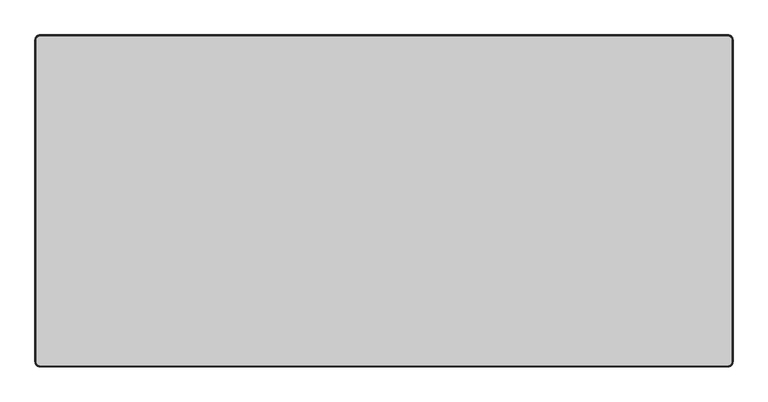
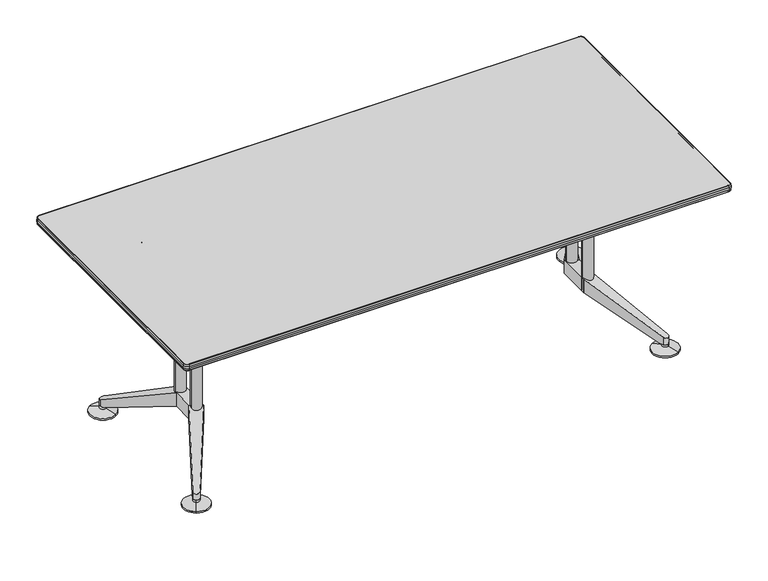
"""IFC4 building model written with IfcOpenShell, lengths in millimetres: furniture geometry, Furniture_Wilkhahn_620-00_Logon Table-Rectangle : Logon 620/00_2100L x 1000W x 730H."""

from ifc_helpers import new_model, si_unit, point, frame, frame_2d, origin, place, context, project, spatial, polyline, circle_curve, ellipse_curve, trimmed, segment, composite_curve, outline, extrude, source, transform, mapped, element, save
from ifc_brep_helpers import plane_surface, cylinder_surface, revolved_surface, advanced_brep


def furniture_32fb68a4(model_context):
    return source(origin(), model_context, "Body", "SolidModel", [
        advanced_brep(
        [(1035.0, 522.1711806, 730.0), (-1035.0, 522.1711806, 730.0), (-1046.2200262, 510.9511544, 730.0), (-1046.2200262, -459.0488456, 730.0), (-1035.0, -470.2688717, 730.0), (1035.0, -470.2688717, 730.0), (1046.2200262, -459.0488456, 730.0), (1046.2200262, 510.9511544, 730.0), (-1046.2200262, -459.0488456, 703.9999792), (-1046.2200262, 510.9511544, 703.9999792), (-1035.0, 522.1711806, 703.9999792), (1035.0, 522.1711806, 703.9999792), (1046.2200262, 510.9511544, 703.9999792), (1046.2200262, -459.0488456, 703.9999792), (1035.0, -470.2688717, 703.9999792), (-1035.0, -470.2688717, 703.9999792), (-1035.0, -472.5502006, 720.5693751), (-1048.5013551, -459.0488456, 720.5693751), (-1048.5013551, -459.0488456, 713.4306041), (-1035.0, -472.5502006, 713.4306041), (1035.0, -472.5502006, 713.4306041), (1035.0, -472.5502006, 720.5693751), (1048.5013551, -459.0488456, 713.4306041), (1048.5013551, -459.0488456, 720.5693751), (1048.5013551, 510.9511544, 713.4306041), (1048.5013551, 510.9511544, 720.5693751), (1035.0, 524.4525095, 713.4306041), (1035.0, 524.4525095, 720.5693751), (-1035.0, 524.4525095, 713.4306041), (-1035.0, 524.4525095, 720.5693751), (-1048.5013551, 510.9511544, 713.4306041), (-1048.5013551, 510.9511544, 720.5693751), (-1035.0, -471.7520946, 705.2762608), (-1047.703249, -459.0488456, 705.2762608), (-1035.0, -471.7520946, 728.7237185), (-1047.703249, -459.0488456, 728.7237185), (1035.0, -471.7520946, 705.2762608), (1035.0, -471.7520946, 728.7237185), (1047.703249, -459.0488456, 705.2762608), (1047.703249, -459.0488456, 728.7237185), (1047.703249, 510.9511544, 705.2762608), (1047.703249, 510.9511544, 728.7237185), (1035.0, 523.6544035, 705.2762608), (1035.0, 523.6544035, 728.7237185), (-1035.0, 523.6544035, 705.2762608), (-1035.0, 523.6544035, 728.7237185), (-1047.703249, 510.9511544, 705.2762608), (-1047.703249, 510.9511544, 728.7237185)],
        [
            (0, 1),
            (1, 2, circle_curve(frame((-1035.0, 510.9511544, 730.0), z_axis=(0.0, 0.0, 1.0), x_axis=(0.0, 1.0, 0.0)), 11.2200262)),
            (2, 3),
            (3, 4, circle_curve(frame((-1035.0, -459.0488456, 730.0), z_axis=(0.0, 0.0, 1.0), x_axis=(-1.0, 0.0, 0.0)), 11.2200262)),
            (4, 5),
            (5, 6, circle_curve(frame((1035.0, -459.0488456, 730.0), z_axis=(0.0, 0.0, 1.0), x_axis=(0.0, -1.0, 0.0)), 11.2200262)),
            (6, 7),
            (7, 0, circle_curve(frame((1035.0, 510.9511544, 730.0), z_axis=(0.0, 0.0, 1.0), x_axis=(1.0, 0.0, 0.0)), 11.2200262)),
            (8, 9),
            (9, 10, circle_curve(frame((-1035.0, 510.9511544, 703.9999792), z_axis=(0.0, 0.0, -1.0), x_axis=(0.0, 1.0, 0.0)), 11.2200262)),
            (10, 11),
            (11, 12, circle_curve(frame((1035.0, 510.9511544, 703.9999792), z_axis=(0.0, 0.0, -1.0), x_axis=(1.0, 0.0, 0.0)), 11.2200262)),
            (12, 13),
            (13, 14, circle_curve(frame((1035.0, -459.0488456, 703.9999792), z_axis=(0.0, 0.0, -1.0), x_axis=(0.0, -1.0, 0.0)), 11.2200262)),
            (14, 15),
            (15, 8, circle_curve(frame((-1035.0, -459.0488456, 703.9999792), z_axis=(0.0, 0.0, -1.0), x_axis=(-1.0, 0.0, 0.0)), 11.2200262)),
            (16, 17, circle_curve(frame((-1035.0, -459.0488456, 720.5693751), z_axis=(0.0, 0.0, -1.0), x_axis=(-1.0, 0.0, 0.0)), 13.5013551)),
            (17, 18, circle_curve(frame((-1045.0, -459.0488456, 716.9999896), z_axis=(0.0, -1.0, 0.0), x_axis=(1.0, 0.0, 0.0)), 5.0)),
            (18, 19, circle_curve(frame((-1035.0, -459.0488456, 713.4306041), z_axis=(0.0, 0.0, 1.0), x_axis=(-1.0, 0.0, 0.0)), 13.5013551)),
            (19, 16, circle_curve(frame((-1035.0, -469.0488456, 716.9999896), z_axis=(-1.0, 0.0, 0.0), x_axis=(0.0, 1.0, 0.0)), 5.0)),
            (19, 20),
            (20, 21, circle_curve(frame((1035.0, -469.0488456, 716.9999896), z_axis=(-1.0, 0.0, 0.0), x_axis=(0.0, 1.0, 0.0)), 5.0)),
            (21, 16),
            (20, 22, circle_curve(frame((1035.0, -459.0488456, 713.4306041), z_axis=(0.0, 0.0, 1.0), x_axis=(0.0, -1.0, 0.0)), 13.5013551)),
            (22, 23, circle_curve(frame((1045.0, -459.0488456, 716.9999896), z_axis=(0.0, -1.0, 0.0), x_axis=(-1.0, 0.0, 0.0)), 5.0)),
            (23, 21, circle_curve(frame((1035.0, -459.0488456, 720.5693751), z_axis=(0.0, 0.0, -1.0), x_axis=(0.0, -1.0, 0.0)), 13.5013551)),
            (22, 24),
            (24, 25, circle_curve(frame((1045.0, 510.9511544, 716.9999896), z_axis=(0.0, -1.0, 0.0), x_axis=(-1.0, 0.0, 0.0)), 5.0)),
            (25, 23),
            (24, 26, circle_curve(frame((1035.0, 510.9511544, 713.4306041), z_axis=(0.0, 0.0, 1.0), x_axis=(1.0, 0.0, 0.0)), 13.5013551)),
            (26, 27, circle_curve(frame((1035.0, 520.9511544, 716.9999896), z_axis=(1.0, 0.0, 0.0), x_axis=(0.0, -1.0, 0.0)), 5.0)),
            (27, 25, circle_curve(frame((1035.0, 510.9511544, 720.5693751), z_axis=(0.0, 0.0, -1.0), x_axis=(1.0, 0.0, 0.0)), 13.5013551)),
            (26, 28),
            (28, 29, circle_curve(frame((-1035.0, 520.9511544, 716.9999896), z_axis=(1.0, 0.0, 0.0), x_axis=(0.0, -1.0, 0.0)), 5.0)),
            (29, 27),
            (28, 30, circle_curve(frame((-1035.0, 510.9511544, 713.4306041), z_axis=(0.0, 0.0, 1.0), x_axis=(0.0, 1.0, 0.0)), 13.5013551)),
            (30, 31, circle_curve(frame((-1045.0, 510.9511544, 716.9999896), z_axis=(0.0, 1.0, 0.0), x_axis=(1.0, 0.0, 0.0)), 5.0)),
            (31, 29, circle_curve(frame((-1035.0, 510.9511544, 720.5693751), z_axis=(0.0, 0.0, -1.0), x_axis=(0.0, 1.0, 0.0)), 13.5013551)),
            (17, 31),
            (30, 18),
            (15, 32, circle_curve(frame((-1035.0, -470.2688717, 705.4999792), z_axis=(-1.0, 0.0, 0.0), x_axis=(0.0, 1.0, 0.0)), 1.5)),
            (32, 33, circle_curve(frame((-1035.0, -459.0488456, 705.2762608), z_axis=(0.0, 0.0, -1.0), x_axis=(-1.0, 0.0, 0.0)), 12.703249)),
            (33, 8, circle_curve(frame((-1046.2200262, -459.0488456, 705.4999792), z_axis=(0.0, -1.0, 0.0), x_axis=(1.0, 0.0, 0.0)), 1.5)),
            (18, 33, circle_curve(frame((-969.9765254, -459.0488456, 716.9999896), z_axis=(0.0, -1.0, 0.0), x_axis=(1.0, 0.0, 0.0)), 78.6059119)),
            (32, 19, circle_curve(frame((-1035.0, -394.025371, 716.9999896), z_axis=(-1.0, 0.0, 0.0), x_axis=(0.0, 1.0, 0.0)), 78.6059119)),
            (16, 34, circle_curve(frame((-1035.0, -394.025371, 716.9999896), z_axis=(-1.0, 0.0, 0.0), x_axis=(0.0, 1.0, 0.0)), 78.6059119)),
            (34, 35, circle_curve(frame((-1035.0, -459.0488456, 728.7237185), z_axis=(0.0, 0.0, -1.0), x_axis=(-1.0, 0.0, 0.0)), 12.703249)),
            (35, 17, circle_curve(frame((-969.9765254, -459.0488456, 716.9999896), z_axis=(0.0, -1.0, 0.0), x_axis=(1.0, 0.0, 0.0)), 78.6059119)),
            (3, 35, circle_curve(frame((-1046.2200262, -459.0488456, 728.5), z_axis=(0.0, -1.0, 0.0), x_axis=(1.0, 0.0, 0.0)), 1.5)),
            (34, 4, circle_curve(frame((-1035.0, -470.2688717, 728.5), z_axis=(-1.0, 0.0, 0.0), x_axis=(0.0, 1.0, 0.0)), 1.5)),
            (14, 36, circle_curve(frame((1035.0, -470.2688717, 705.4999792), z_axis=(-1.0, 0.0, 0.0), x_axis=(0.0, 1.0, 0.0)), 1.5)),
            (36, 32),
            (36, 20, circle_curve(frame((1035.0, -394.025371, 716.9999896), z_axis=(-1.0, 0.0, 0.0), x_axis=(0.0, 1.0, 0.0)), 78.6059119)),
            (21, 37, circle_curve(frame((1035.0, -394.025371, 716.9999896), z_axis=(-1.0, 0.0, 0.0), x_axis=(0.0, 1.0, 0.0)), 78.6059119)),
            (37, 34),
            (37, 5, circle_curve(frame((1035.0, -470.2688717, 728.5), z_axis=(-1.0, 0.0, 0.0), x_axis=(0.0, 1.0, 0.0)), 1.5)),
            (13, 38, circle_curve(frame((1046.2200262, -459.0488456, 705.4999792), z_axis=(0.0, -1.0, 0.0), x_axis=(-1.0, 0.0, 0.0)), 1.5)),
            (38, 36, circle_curve(frame((1035.0, -459.0488456, 705.2762608), z_axis=(0.0, 0.0, -1.0), x_axis=(0.0, -1.0, 0.0)), 12.703249)),
            (38, 22, circle_curve(frame((969.9765254, -459.0488456, 716.9999896), z_axis=(0.0, -1.0, 0.0), x_axis=(-1.0, 0.0, 0.0)), 78.6059119)),
            (23, 39, circle_curve(frame((969.9765254, -459.0488456, 716.9999896), z_axis=(0.0, -1.0, 0.0), x_axis=(-1.0, 0.0, 0.0)), 78.6059119)),
            (39, 37, circle_curve(frame((1035.0, -459.0488456, 728.7237185), z_axis=(0.0, 0.0, -1.0), x_axis=(0.0, -1.0, 0.0)), 12.703249)),
            (39, 6, circle_curve(frame((1046.2200262, -459.0488456, 728.5), z_axis=(0.0, -1.0, 0.0), x_axis=(-1.0, 0.0, 0.0)), 1.5)),
            (12, 40, circle_curve(frame((1046.2200262, 510.9511544, 705.4999792), z_axis=(0.0, -1.0, 0.0), x_axis=(-1.0, 0.0, 0.0)), 1.5)),
            (40, 38),
            (40, 24, circle_curve(frame((969.9765254, 510.9511544, 716.9999896), z_axis=(0.0, -1.0, 0.0), x_axis=(-1.0, 0.0, 0.0)), 78.6059119)),
            (25, 41, circle_curve(frame((969.9765254, 510.9511544, 716.9999896), z_axis=(0.0, -1.0, 0.0), x_axis=(-1.0, 0.0, 0.0)), 78.6059119)),
            (41, 39),
            (41, 7, circle_curve(frame((1046.2200262, 510.9511544, 728.5), z_axis=(0.0, -1.0, 0.0), x_axis=(-1.0, 0.0, 0.0)), 1.5)),
            (11, 42, circle_curve(frame((1035.0, 522.1711806, 705.4999792), z_axis=(1.0, 0.0, 0.0), x_axis=(0.0, -1.0, 0.0)), 1.5)),
            (42, 40, circle_curve(frame((1035.0, 510.9511544, 705.2762608), z_axis=(0.0, 0.0, -1.0), x_axis=(1.0, 0.0, 0.0)), 12.703249)),
            (42, 26, circle_curve(frame((1035.0, 445.9276799, 716.9999896), z_axis=(1.0, 0.0, 0.0), x_axis=(0.0, -1.0, 0.0)), 78.6059119)),
            (27, 43, circle_curve(frame((1035.0, 445.9276799, 716.9999896), z_axis=(1.0, 0.0, 0.0), x_axis=(0.0, -1.0, 0.0)), 78.6059119)),
            (43, 41, circle_curve(frame((1035.0, 510.9511544, 728.7237185), z_axis=(0.0, 0.0, -1.0), x_axis=(1.0, 0.0, 0.0)), 12.703249)),
            (43, 0, circle_curve(frame((1035.0, 522.1711806, 728.5), z_axis=(1.0, 0.0, 0.0), x_axis=(0.0, -1.0, 0.0)), 1.5)),
            (10, 44, circle_curve(frame((-1035.0, 522.1711806, 705.4999792), z_axis=(1.0, 0.0, 0.0), x_axis=(0.0, -1.0, 0.0)), 1.5)),
            (44, 42),
            (44, 28, circle_curve(frame((-1035.0, 445.9276799, 716.9999896), z_axis=(1.0, 0.0, 0.0), x_axis=(0.0, -1.0, 0.0)), 78.6059119)),
            (29, 45, circle_curve(frame((-1035.0, 445.9276799, 716.9999896), z_axis=(1.0, 0.0, 0.0), x_axis=(0.0, -1.0, 0.0)), 78.6059119)),
            (45, 43),
            (45, 1, circle_curve(frame((-1035.0, 522.1711806, 728.5), z_axis=(1.0, 0.0, 0.0), x_axis=(0.0, -1.0, 0.0)), 1.5)),
            (9, 46, circle_curve(frame((-1046.2200262, 510.9511544, 705.4999792), z_axis=(0.0, 1.0, 0.0), x_axis=(1.0, 0.0, 0.0)), 1.5)),
            (46, 44, circle_curve(frame((-1035.0, 510.9511544, 705.2762608), z_axis=(0.0, 0.0, -1.0), x_axis=(0.0, 1.0, 0.0)), 12.703249)),
            (46, 30, circle_curve(frame((-969.9765254, 510.9511544, 716.9999896), z_axis=(0.0, 1.0, 0.0), x_axis=(1.0, 0.0, 0.0)), 78.6059119)),
            (31, 47, circle_curve(frame((-969.9765254, 510.9511544, 716.9999896), z_axis=(0.0, 1.0, 0.0), x_axis=(1.0, 0.0, 0.0)), 78.6059119)),
            (47, 45, circle_curve(frame((-1035.0, 510.9511544, 728.7237185), z_axis=(0.0, 0.0, -1.0), x_axis=(0.0, 1.0, 0.0)), 12.703249)),
            (47, 2, circle_curve(frame((-1046.2200262, 510.9511544, 728.5), z_axis=(0.0, 1.0, 0.0), x_axis=(1.0, 0.0, 0.0)), 1.5)),
            (33, 46),
            (35, 47),
        ],
        [
            plane_surface(frame((-1045.0, -459.0488456, 730.0), z_axis=(0.0, 0.0, 1.0), x_axis=(0.0, -1.0, 0.0))),
            plane_surface(frame((-1045.0, -459.0488456, 703.9999792), z_axis=(0.0, 0.0, -1.0), x_axis=(0.0, 1.0, 0.0))),
            revolved_surface(trimmed(ellipse_curve(frame((-1045.0, -459.0488456, 716.9999896), z_axis=(0.0, 1.0, 0.0), x_axis=(1.0, 0.0, 0.0)), 5.0, 5.0), [point((-1048.5013551, -459.0488456, 713.4306041))], [point((-1048.5013551, -459.0488456, 720.5693751))], True, "CARTESIAN"), (-1035.0, -459.0488456, 730.0), (0.0, 0.0, 1.0)),
            cylinder_surface(frame((-1035.0, -469.0488456, 716.9999896), z_axis=(-1.0, 0.0, 0.0), x_axis=(0.0, 1.0, 0.0)), 5.0),
            revolved_surface(trimmed(ellipse_curve(frame((1035.0, -469.0488456, 716.9999896), z_axis=(-1.0, 0.0, 0.0), x_axis=(0.0, 1.0, 0.0)), 5.0, 5.0), [point((1035.0, -472.5502006, 713.4306041))], [point((1035.0, -472.5502006, 720.5693751))], True, "CARTESIAN"), (1035.0, -459.0488456, 730.0), (0.0, 0.0, 1.0)),
            cylinder_surface(frame((1045.0, -459.0488456, 716.9999896), z_axis=(0.0, -1.0, 0.0), x_axis=(-1.0, 0.0, 0.0)), 5.0),
            revolved_surface(trimmed(ellipse_curve(frame((1045.0, 510.9511544, 716.9999896), z_axis=(0.0, -1.0, 0.0), x_axis=(-1.0, 0.0, 0.0)), 5.0, 5.0), [point((1048.5013551, 510.9511544, 713.4306041))], [point((1048.5013551, 510.9511544, 720.5693751))], True, "CARTESIAN"), (1035.0, 510.9511544, 730.0), (0.0, 0.0, 1.0)),
            cylinder_surface(frame((1035.0, 520.9511544, 716.9999896), z_axis=(1.0, 0.0, 0.0), x_axis=(0.0, -1.0, 0.0)), 5.0),
            revolved_surface(trimmed(ellipse_curve(frame((-1035.0, 520.9511544, 716.9999896), z_axis=(1.0, 0.0, 0.0), x_axis=(0.0, -1.0, 0.0)), 5.0, 5.0), [point((-1035.0, 524.4525095, 713.4306041))], [point((-1035.0, 524.4525095, 720.5693751))], True, "CARTESIAN"), (-1035.0, 510.9511544, 730.0), (0.0, 0.0, 1.0)),
            cylinder_surface(frame((-1045.0, 510.9511544, 716.9999896), z_axis=(0.0, 1.0, 0.0), x_axis=(1.0, 0.0, 0.0)), 5.0),
            revolved_surface(trimmed(ellipse_curve(frame((-1046.2200262, -459.0488456, 705.4999792), z_axis=(0.0, 1.0, 0.0), x_axis=(1.0, 0.0, 0.0)), 1.5, 1.5), [point((-1046.2200262, -459.0488456, 703.9999792))], [point((-1047.703249, -459.0488456, 705.2762608))], True, "CARTESIAN"), (-1035.0, -459.0488456, 730.0), (0.0, 0.0, 1.0)),
            revolved_surface(trimmed(ellipse_curve(frame((-969.9765254, -459.0488456, 716.9999896), z_axis=(0.0, 1.0, 0.0), x_axis=(1.0, 0.0, 0.0)), 78.6059119, 78.6059119), [point((-1047.703249, -459.0488456, 705.2762608))], [point((-1048.5013551, -459.0488456, 713.4306041))], True, "CARTESIAN"), (-1035.0, -459.0488456, 730.0), (0.0, 0.0, 1.0)),
            revolved_surface(trimmed(ellipse_curve(frame((-969.9765254, -459.0488456, 716.9999896), z_axis=(0.0, 1.0, 0.0), x_axis=(1.0, 0.0, 0.0)), 78.6059119, 78.6059119), [point((-1048.5013551, -459.0488456, 720.5693751))], [point((-1047.703249, -459.0488456, 728.7237185))], True, "CARTESIAN"), (-1035.0, -459.0488456, 730.0), (0.0, 0.0, 1.0)),
            revolved_surface(trimmed(ellipse_curve(frame((-1046.2200262, -459.0488456, 728.5), z_axis=(0.0, 1.0, 0.0), x_axis=(1.0, 0.0, 0.0)), 1.5, 1.5), [point((-1047.703249, -459.0488456, 728.7237185))], [point((-1046.2200262, -459.0488456, 730.0))], True, "CARTESIAN"), (-1035.0, -459.0488456, 730.0), (0.0, 0.0, 1.0)),
            cylinder_surface(frame((-1035.0, -470.2688717, 705.4999792), z_axis=(-1.0, 0.0, 0.0), x_axis=(0.0, 1.0, 0.0)), 1.5),
            cylinder_surface(frame((-1035.0, -394.025371, 716.9999896), z_axis=(-1.0, 0.0, 0.0), x_axis=(0.0, 1.0, 0.0)), 78.6059119),
            cylinder_surface(frame((-1035.0, -470.2688717, 728.5), z_axis=(-1.0, 0.0, 0.0), x_axis=(0.0, 1.0, 0.0)), 1.5),
            revolved_surface(trimmed(ellipse_curve(frame((1035.0, -470.2688717, 705.4999792), z_axis=(-1.0, 0.0, 0.0), x_axis=(0.0, 1.0, 0.0)), 1.5, 1.5), [point((1035.0, -470.2688717, 703.9999792))], [point((1035.0, -471.7520946, 705.2762608))], True, "CARTESIAN"), (1035.0, -459.0488456, 730.0), (0.0, 0.0, 1.0)),
            revolved_surface(trimmed(ellipse_curve(frame((1035.0, -394.025371, 716.9999896), z_axis=(-1.0, 0.0, 0.0), x_axis=(0.0, 1.0, 0.0)), 78.6059119, 78.6059119), [point((1035.0, -471.7520946, 705.2762608))], [point((1035.0, -472.5502006, 713.4306041))], True, "CARTESIAN"), (1035.0, -459.0488456, 730.0), (0.0, 0.0, 1.0)),
            revolved_surface(trimmed(ellipse_curve(frame((1035.0, -394.025371, 716.9999896), z_axis=(-1.0, 0.0, 0.0), x_axis=(0.0, 1.0, 0.0)), 78.6059119, 78.6059119), [point((1035.0, -472.5502006, 720.5693751))], [point((1035.0, -471.7520946, 728.7237185))], True, "CARTESIAN"), (1035.0, -459.0488456, 730.0), (0.0, 0.0, 1.0)),
            revolved_surface(trimmed(ellipse_curve(frame((1035.0, -470.2688717, 728.5), z_axis=(-1.0, 0.0, 0.0), x_axis=(0.0, 1.0, 0.0)), 1.5, 1.5), [point((1035.0, -471.7520946, 728.7237185))], [point((1035.0, -470.2688717, 730.0))], True, "CARTESIAN"), (1035.0, -459.0488456, 730.0), (0.0, 0.0, 1.0)),
            cylinder_surface(frame((1046.2200262, -459.0488456, 705.4999792), z_axis=(0.0, -1.0, 0.0), x_axis=(-1.0, 0.0, 0.0)), 1.5),
            cylinder_surface(frame((969.9765254, -459.0488456, 716.9999896), z_axis=(0.0, -1.0, 0.0), x_axis=(-1.0, 0.0, 0.0)), 78.6059119),
            cylinder_surface(frame((1046.2200262, -459.0488456, 728.5), z_axis=(0.0, -1.0, 0.0), x_axis=(-1.0, 0.0, 0.0)), 1.5),
            revolved_surface(trimmed(ellipse_curve(frame((1046.2200262, 510.9511544, 705.4999792), z_axis=(0.0, -1.0, 0.0), x_axis=(-1.0, 0.0, 0.0)), 1.5, 1.5), [point((1046.2200262, 510.9511544, 703.9999792))], [point((1047.703249, 510.9511544, 705.2762608))], True, "CARTESIAN"), (1035.0, 510.9511544, 730.0), (0.0, 0.0, 1.0)),
            revolved_surface(trimmed(ellipse_curve(frame((969.9765254, 510.9511544, 716.9999896), z_axis=(0.0, -1.0, 0.0), x_axis=(-1.0, 0.0, 0.0)), 78.6059119, 78.6059119), [point((1047.703249, 510.9511544, 705.2762608))], [point((1048.5013551, 510.9511544, 713.4306041))], True, "CARTESIAN"), (1035.0, 510.9511544, 730.0), (0.0, 0.0, 1.0)),
            revolved_surface(trimmed(ellipse_curve(frame((969.9765254, 510.9511544, 716.9999896), z_axis=(0.0, -1.0, 0.0), x_axis=(-1.0, 0.0, 0.0)), 78.6059119, 78.6059119), [point((1048.5013551, 510.9511544, 720.5693751))], [point((1047.703249, 510.9511544, 728.7237185))], True, "CARTESIAN"), (1035.0, 510.9511544, 730.0), (0.0, 0.0, 1.0)),
            revolved_surface(trimmed(ellipse_curve(frame((1046.2200262, 510.9511544, 728.5), z_axis=(0.0, -1.0, 0.0), x_axis=(-1.0, 0.0, 0.0)), 1.5, 1.5), [point((1047.703249, 510.9511544, 728.7237185))], [point((1046.2200262, 510.9511544, 730.0))], True, "CARTESIAN"), (1035.0, 510.9511544, 730.0), (0.0, 0.0, 1.0)),
            cylinder_surface(frame((1035.0, 522.1711806, 705.4999792), z_axis=(1.0, 0.0, 0.0), x_axis=(0.0, -1.0, 0.0)), 1.5),
            cylinder_surface(frame((1035.0, 445.9276799, 716.9999896), z_axis=(1.0, 0.0, 0.0), x_axis=(0.0, -1.0, 0.0)), 78.6059119),
            cylinder_surface(frame((1035.0, 522.1711806, 728.5), z_axis=(1.0, 0.0, 0.0), x_axis=(0.0, -1.0, 0.0)), 1.5),
            revolved_surface(trimmed(ellipse_curve(frame((-1035.0, 522.1711806, 705.4999792), z_axis=(1.0, 0.0, 0.0), x_axis=(0.0, -1.0, 0.0)), 1.5, 1.5), [point((-1035.0, 522.1711806, 703.9999792))], [point((-1035.0, 523.6544035, 705.2762608))], True, "CARTESIAN"), (-1035.0, 510.9511544, 730.0), (0.0, 0.0, 1.0)),
            revolved_surface(trimmed(ellipse_curve(frame((-1035.0, 445.9276799, 716.9999896), z_axis=(1.0, 0.0, 0.0), x_axis=(0.0, -1.0, 0.0)), 78.6059119, 78.6059119), [point((-1035.0, 523.6544035, 705.2762608))], [point((-1035.0, 524.4525095, 713.4306041))], True, "CARTESIAN"), (-1035.0, 510.9511544, 730.0), (0.0, 0.0, 1.0)),
            revolved_surface(trimmed(ellipse_curve(frame((-1035.0, 445.9276799, 716.9999896), z_axis=(1.0, 0.0, 0.0), x_axis=(0.0, -1.0, 0.0)), 78.6059119, 78.6059119), [point((-1035.0, 524.4525095, 720.5693751))], [point((-1035.0, 523.6544035, 728.7237185))], True, "CARTESIAN"), (-1035.0, 510.9511544, 730.0), (0.0, 0.0, 1.0)),
            revolved_surface(trimmed(ellipse_curve(frame((-1035.0, 522.1711806, 728.5), z_axis=(1.0, 0.0, 0.0), x_axis=(0.0, -1.0, 0.0)), 1.5, 1.5), [point((-1035.0, 523.6544035, 728.7237185))], [point((-1035.0, 522.1711806, 730.0))], True, "CARTESIAN"), (-1035.0, 510.9511544, 730.0), (0.0, 0.0, 1.0)),
            cylinder_surface(frame((-1046.2200262, 510.9511544, 705.4999792), z_axis=(0.0, 1.0, 0.0), x_axis=(1.0, 0.0, 0.0)), 1.5),
            cylinder_surface(frame((-969.9765254, 510.9511544, 716.9999896), z_axis=(0.0, 1.0, 0.0), x_axis=(1.0, 0.0, 0.0)), 78.6059119),
            cylinder_surface(frame((-1046.2200262, 510.9511544, 728.5), z_axis=(0.0, 1.0, 0.0), x_axis=(1.0, 0.0, 0.0)), 1.5),
        ],
        [
            (0, [[1, 2, 3, 4, 5, 6, 7, 8]]),
            (1, [[9, 10, 11, 12, 13, 14, 15, 16]]),
            (2, [[17, 18, 19, 20]]),
            (3, [[-20, 21, 22, 23]]),
            (4, [[-22, 24, 25, 26]]),
            (5, [[-25, 27, 28, 29]]),
            (6, [[-28, 30, 31, 32]]),
            (7, [[-31, 33, 34, 35]]),
            (8, [[-34, 36, 37, 38]]),
            (9, [[-18, 39, -37, 40]]),
            (10, [[-16, 41, 42, 43]]),
            (11, [[-19, 44, -42, 45]]),
            (12, [[-17, 46, 47, 48]]),
            (13, [[-4, 49, -47, 50]]),
            (14, [[-15, 51, 52, -41]]),
            (15, [[-21, -45, -52, 53]]),
            (15, [[-23, 54, 55, -46]]),
            (16, [[-5, -50, -55, 56]]),
            (17, [[-14, 57, 58, -51]]),
            (18, [[-24, -53, -58, 59]]),
            (19, [[-26, 60, 61, -54]]),
            (20, [[-6, -56, -61, 62]]),
            (21, [[-13, 63, 64, -57]]),
            (22, [[-27, -59, -64, 65]]),
            (22, [[-29, 66, 67, -60]]),
            (23, [[-7, -62, -67, 68]]),
            (24, [[-12, 69, 70, -63]]),
            (25, [[-30, -65, -70, 71]]),
            (26, [[-32, 72, 73, -66]]),
            (27, [[-8, -68, -73, 74]]),
            (28, [[-11, 75, 76, -69]]),
            (29, [[-33, -71, -76, 77]]),
            (29, [[-35, 78, 79, -72]]),
            (30, [[-1, -74, -79, 80]]),
            (31, [[-10, 81, 82, -75]]),
            (32, [[-36, -77, -82, 83]]),
            (33, [[-38, 84, 85, -78]]),
            (34, [[-2, -80, -85, 86]]),
            (35, [[-9, -43, 87, -81]]),
            (36, [[-40, -83, -87, -44]]),
            (36, [[-39, -48, 88, -84]]),
            (37, [[-3, -86, -88, -49]]),
        ],
    ),
        extrude(outline(polyline([(771.6506351, -14.5488456), (728.3493649, -39.5488456), (728.3493649, 91.4511544), (771.6506351, 66.4511544), (771.6506351, -14.5488456)])), frame((0.0, 0.0, 140.0), z_axis=(0.0, 0.0, 1.0), x_axis=(1.0, 0.0, 0.0)), (0.0, 0.0, 1.0), 55.0),
        advanced_brep(
        [(728.3493649, -39.5488456, 195.0), (888.2296242, -291.398815, 56.1717347), (905.0, -295.5167207, 50.6048844), (909.8189769, -278.9341964, 56.1717347), (771.6506351, -14.5488456, 195.0), (903.7925387, -267.402597, 27.0), (909.8189769, -278.9341964, 27.0), (905.0, -295.5167207, 27.0), (888.2296242, -291.398815, 27.0), (881.2561852, -280.4139667, 27.0), (771.6506351, -14.5488456, 140.0), (728.3493649, -39.5488456, 140.0)],
        [
            (0, 1),
            (1, 2, ellipse_curve(frame((898.762181, -284.7125013, 56.4159205), z_axis=(0.21111665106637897, -0.36566476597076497, 0.9064871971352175), x_axis=(0.4532435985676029, -0.7850409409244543, -0.42223330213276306)), 13.7626191, 12.475638)),
            (2, 3, ellipse_curve(frame((898.762181, -284.7125013, 56.4159205), z_axis=(0.21111665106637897, -0.36566476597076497, 0.9064871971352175), x_axis=(0.4532435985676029, -0.7850409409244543, -0.42223330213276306)), 13.7626191, 12.475638)),
            (3, 4),
            (4, 0),
            (5, 6),
            (6, 7, circle_curve(frame((898.762181, -284.7125013, 27.0), z_axis=(0.0, 0.0, -1.0), x_axis=(0.8660254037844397, 0.4999999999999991, 0.0)), 12.475638)),
            (7, 8, circle_curve(frame((898.762181, -284.7125013, 27.0), z_axis=(0.0, 0.0, -1.0), x_axis=(0.8660254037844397, 0.4999999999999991, 0.0)), 12.475638)),
            (8, 9),
            (9, 5),
            (10, 5),
            (9, 11),
            (11, 10),
            (4, 10),
            (11, 0),
            (3, 6),
            (8, 1),
        ],
        [
            plane_surface(frame((926.6506351, -283.0167207, 50.6048844), z_axis=(0.21111665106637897, -0.36566476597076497, 0.9064871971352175), x_axis=(-0.8660254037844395, -0.49999999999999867, 0.0))),
            plane_surface(frame((914.1749971, -261.4082819, 27.0), z_axis=(0.0, 0.0, -1.0), x_axis=(-0.8660254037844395, -0.49999999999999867, 0.0))),
            plane_surface(frame((771.6506351, -14.5488456, 140.0), z_axis=(-0.18426133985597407, 0.3191500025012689, -0.9296187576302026), x_axis=(-0.866025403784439, -0.4999999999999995, 0.0))),
            plane_surface(frame((771.6506351, -14.5488456, 195.0), z_axis=(-0.4999999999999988, 0.8660254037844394, 0.0), x_axis=(-0.8660254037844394, -0.4999999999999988, 0.0))),
            plane_surface(frame((909.8189769, -278.9341964, 195.0), z_axis=(0.8862709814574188, 0.4631670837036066, 0.0), x_axis=(0.0, 0.0, -1.0))),
            plane_surface(frame((728.3493649, -39.5488456, 195.0), z_axis=(-0.8442499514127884, -0.5359496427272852, 0.0), x_axis=(0.0, 0.0, -1.0))),
            cylinder_surface(frame((898.762181, -284.7125013, 0.0), z_axis=(0.0, 0.0, -1.0), x_axis=(0.8660254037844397, 0.4999999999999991, 0.0)), 12.475638),
        ],
        [
            (0, [[1, 2, 3, 4, 5]]),
            (1, [[6, 7, 8, 9, 10]]),
            (2, [[11, -10, 12, 13]]),
            (3, [[14, -13, 15, -5]]),
            (4, [[-6, -11, -14, -4, 16]]),
            (5, [[-1, -15, -12, -9, 17]]),
            (6, [[-3, -2, -17, -8, -7, -16]]),
        ],
    ),
        advanced_brep(
        [(898.762181, 336.6148102, 0.0), (873.762181, 293.31354, 0.0), (923.762181, 379.9160804, 0.0), (873.762181, 293.31354, 6.0), (923.762181, 379.9160804, 6.0), (892.524362, 325.8105907, 17.0), (905.0, 347.4190296, 17.0), (892.524362, 325.8105907, 27.0), (905.0, 347.4190296, 27.0), (898.762181, 336.6148102, 27.0)],
        [
            (0, 1),
            (1, 2, circle_curve(frame((898.762181, 336.6148102, 0.0), z_axis=(0.0, 0.0, -1.0), x_axis=(0.49999999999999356, 0.8660254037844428, 0.0)), 50.0)),
            (2, 0),
            (2, 1, circle_curve(frame((898.762181, 336.6148102, 0.0), z_axis=(0.0, 0.0, -1.0), x_axis=(0.49999999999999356, 0.8660254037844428, 0.0)), 50.0)),
            (1, 3),
            (3, 4, circle_curve(frame((898.762181, 336.6148102, 6.0), z_axis=(0.0, 0.0, -1.0), x_axis=(0.49999999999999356, 0.8660254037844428, 0.0)), 50.0)),
            (4, 2),
            (4, 3, circle_curve(frame((898.762181, 336.6148102, 6.0), z_axis=(0.0, 0.0, -1.0), x_axis=(0.49999999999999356, 0.8660254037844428, 0.0)), 50.0)),
            (3, 5),
            (5, 6, circle_curve(frame((898.762181, 336.6148102, 17.0), z_axis=(0.0, 0.0, -1.0), x_axis=(0.49999999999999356, 0.8660254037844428, 0.0)), 12.475638)),
            (6, 4),
            (6, 5, circle_curve(frame((898.762181, 336.6148102, 17.0), z_axis=(0.0, 0.0, -1.0), x_axis=(0.49999999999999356, 0.8660254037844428, 0.0)), 12.475638)),
            (5, 7),
            (7, 8, circle_curve(frame((898.762181, 336.6148102, 27.0), z_axis=(0.0, 0.0, -1.0), x_axis=(0.49999999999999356, 0.8660254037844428, 0.0)), 12.475638)),
            (8, 6),
            (8, 7, circle_curve(frame((898.762181, 336.6148102, 27.0), z_axis=(0.0, 0.0, -1.0), x_axis=(0.49999999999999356, 0.8660254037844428, 0.0)), 12.475638)),
            (7, 9),
            (9, 8),
        ],
        [
            plane_surface(frame((898.762181, 336.6148102, 0.0), z_axis=(0.0, 0.0, -1.0), x_axis=(0.49999999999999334, 0.8660254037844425, 0.0))),
            cylinder_surface(frame((898.762181, 336.6148102, 27.0), z_axis=(0.0, 0.0, -1.0), x_axis=(0.49999999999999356, 0.8660254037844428, 0.0)), 50.0),
            revolved_surface(polyline([(905.0, 347.4190296, 17.0), (923.762181, 379.9160804, 6.0)]), (898.762181, 336.6148102, 27.0), (0.0, 0.0, -1.0)),
            cylinder_surface(frame((898.762181, 336.6148102, 27.0), z_axis=(0.0, 0.0, -1.0), x_axis=(0.49999999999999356, 0.8660254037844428, 0.0)), 12.475638),
            plane_surface(frame((898.762181, 336.6148102, 27.0), z_axis=(0.0, 0.0, 1.0), x_axis=(0.49999999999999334, 0.8660254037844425, 0.0))),
        ],
        [
            (0, [[1, 2, 3]]),
            (0, [[-3, 4, -1]]),
            (1, [[5, 6, 7, -2]]),
            (1, [[-7, 8, -5, -4]]),
            (2, [[9, 10, 11, -6]]),
            (2, [[-11, 12, -9, -8]]),
            (3, [[13, 14, 15, -10]]),
            (3, [[-15, 16, -13, -12]]),
            (4, [[17, 18, -14]]),
            (4, [[-18, -17, -16]]),
        ],
    ),
        advanced_brep(
        [(873.762181, -241.4112311, 0.0), (898.762181, -284.7125013, 0.0), (923.762181, -328.0137715, 0.0), (873.762181, -241.4112311, 6.0), (923.762181, -328.0137715, 6.0), (892.524362, -273.9082819, 17.0), (905.0, -295.5167207, 17.0), (892.524362, -273.9082819, 27.0), (905.0, -295.5167207, 27.0), (898.762181, -284.7125013, 27.0)],
        [
            (0, 1),
            (1, 2),
            (2, 0, circle_curve(frame((898.762181, -284.7125013, 0.0), z_axis=(0.0, 0.0, -1.0), x_axis=(0.4999999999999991, -0.8660254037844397, 0.0)), 50.0)),
            (0, 2, circle_curve(frame((898.762181, -284.7125013, 0.0), z_axis=(0.0, 0.0, -1.0), x_axis=(0.4999999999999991, -0.8660254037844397, 0.0)), 50.0)),
            (3, 0),
            (2, 4),
            (4, 3, circle_curve(frame((898.762181, -284.7125013, 6.0), z_axis=(0.0, 0.0, -1.0), x_axis=(0.4999999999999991, -0.8660254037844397, 0.0)), 50.0)),
            (3, 4, circle_curve(frame((898.762181, -284.7125013, 6.0), z_axis=(0.0, 0.0, -1.0), x_axis=(0.4999999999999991, -0.8660254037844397, 0.0)), 50.0)),
            (5, 3),
            (4, 6),
            (6, 5, circle_curve(frame((898.762181, -284.7125013, 17.0), z_axis=(0.0, 0.0, -1.0), x_axis=(0.4999999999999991, -0.8660254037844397, 0.0)), 12.475638)),
            (5, 6, circle_curve(frame((898.762181, -284.7125013, 17.0), z_axis=(0.0, 0.0, -1.0), x_axis=(0.4999999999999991, -0.8660254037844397, 0.0)), 12.475638)),
            (7, 5),
            (6, 8),
            (8, 7, circle_curve(frame((898.762181, -284.7125013, 27.0), z_axis=(0.0, 0.0, -1.0), x_axis=(0.4999999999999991, -0.8660254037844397, 0.0)), 12.475638)),
            (7, 8, circle_curve(frame((898.762181, -284.7125013, 27.0), z_axis=(0.0, 0.0, -1.0), x_axis=(0.4999999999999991, -0.8660254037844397, 0.0)), 12.475638)),
            (9, 7),
            (8, 9),
        ],
        [
            plane_surface(frame((898.762181, -284.7125013, 0.0), z_axis=(0.0, 0.0, -1.0), x_axis=(0.4999999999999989, -0.8660254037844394, 0.0))),
            cylinder_surface(frame((898.762181, -284.7125013, 27.0), z_axis=(0.0, 0.0, 1.0), x_axis=(0.4999999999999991, -0.8660254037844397, 0.0)), 50.0),
            revolved_surface(polyline([(923.762181, -328.0137715, 6.0), (905.0, -295.5167207, 17.0)]), (898.762181, -284.7125013, 27.0), (0.0, 0.0, 1.0)),
            cylinder_surface(frame((898.762181, -284.7125013, 27.0), z_axis=(0.0, 0.0, 1.0), x_axis=(0.4999999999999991, -0.8660254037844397, 0.0)), 12.475638),
            plane_surface(frame((898.762181, -284.7125013, 27.0), z_axis=(0.0, 0.0, 1.0), x_axis=(0.4999999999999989, -0.8660254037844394, 0.0))),
        ],
        [
            (0, [[1, 2, 3]]),
            (0, [[-2, -1, 4]]),
            (1, [[5, -3, 6, 7]]),
            (1, [[-6, -4, -5, 8]]),
            (2, [[9, -7, 10, 11]]),
            (2, [[-10, -8, -9, 12]]),
            (3, [[13, -11, 14, 15]]),
            (3, [[-14, -12, -13, 16]]),
            (4, [[17, -15, 18]]),
            (4, [[-18, -16, -17]]),
        ],
    ),
        extrude(outline(composite_curve([segment(polyline([(775.0, 78.9511544), (775.0, -27.0488456), (801.7160071, -190.1086133)]), True, "CONTINUOUS"), segment(trimmed(circle_curve(frame_2d((789.8739001, -192.0488456)), 12.0), [point((801.7160071, -190.1086133))], [point((789.8739001, -204.0488456))], False, "CARTESIAN"), True, "CONTINUOUS"), segment(polyline([(789.8739001, -204.0488456), (710.1260999, -204.0488456)]), True, "CONTINUOUS"), segment(trimmed(circle_curve(frame_2d((710.1260999, -192.0488456)), 12.0), [point((710.1260999, -204.0488456))], [point((698.2839929, -190.1086133))], False, "CARTESIAN"), True, "CONTINUOUS"), segment(polyline([(698.2839929, -190.1086133), (725.0, -27.0488456), (725.0, 78.9511544), (698.2839929, 242.0109222)]), True, "CONTINUOUS"), segment(trimmed(circle_curve(frame_2d((710.1260999, 243.9511544)), 12.0), [point((698.2839929, 242.0109222))], [point((710.1260999, 255.9511544))], False, "CARTESIAN"), True, "CONTINUOUS"), segment(polyline([(710.1260999, 255.9511544), (789.8739001, 255.9511544)]), True, "CONTINUOUS"), segment(trimmed(circle_curve(frame_2d((789.8739001, 243.9511544)), 12.0), [point((789.8739001, 255.9511544))], [point((801.7160071, 242.0109222))], False, "CARTESIAN"), True, "CONTINUOUS"), segment(polyline([(801.7160071, 242.0109222), (775.0, 78.9511544)]), True, "CONTINUOUS")], self_intersect=False)), frame((0.0, 0.0, 675.0), z_axis=(0.0, 0.0, 1.0), x_axis=(1.0, 0.0, 0.0)), (0.0, 0.0, 1.0), 29.0),
        advanced_brep(
        [(909.8189769, 330.8365053, 56.1717347), (771.6506351, 66.4511544, 195.0), (771.6506351, 66.4511544, 140.0), (903.7925387, 319.3049058, 27.0), (909.8189769, 330.8365053, 27.0), (888.2296242, 343.3011239, 27.0), (881.2561852, 332.3162756, 27.0), (728.3493649, 91.4511544, 140.0), (728.3493649, 91.4511544, 195.0), (888.2296242, 343.3011239, 56.1717347), (905.0, 347.4190296, 50.6048844), (905.0, 347.4190296, 27.0)],
        [
            (0, 1),
            (1, 2),
            (2, 3),
            (3, 4),
            (4, 0),
            (5, 6),
            (6, 7),
            (7, 8),
            (8, 9),
            (9, 5),
            (0, 10, ellipse_curve(frame((898.762181, 336.6148102, 56.4159205), z_axis=(0.21111665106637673, 0.36566476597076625, 0.9064871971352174), x_axis=(0.453243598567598, 0.785040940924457, -0.4222333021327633)), 13.7626191, 12.475638)),
            (10, 9, ellipse_curve(frame((898.762181, 336.6148102, 56.4159205), z_axis=(0.21111665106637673, 0.36566476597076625, 0.9064871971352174), x_axis=(0.453243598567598, 0.785040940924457, -0.4222333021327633)), 13.7626191, 12.475638)),
            (8, 1),
            (5, 11, circle_curve(frame((898.762181, 336.6148102, 27.0), z_axis=(0.0, 0.0, -1.0), x_axis=(0.8660254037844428, -0.49999999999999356, 0.0)), 12.475638)),
            (11, 4, circle_curve(frame((898.762181, 336.6148102, 27.0), z_axis=(0.0, 0.0, -1.0), x_axis=(0.8660254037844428, -0.49999999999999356, 0.0)), 12.475638)),
            (3, 6),
            (2, 7),
        ],
        [
            plane_surface(frame((771.6506351, 66.4511544, 195.0), z_axis=(0.8862709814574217, -0.46316708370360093, 0.0), x_axis=(0.0, 0.0, -1.0))),
            plane_surface(frame((888.2296242, 343.3011239, 195.0), z_axis=(-0.844249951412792, 0.5359496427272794, 0.0), x_axis=(0.0, 0.0, -1.0))),
            plane_surface(frame((771.6506351, 66.4511544, 195.0), z_axis=(0.21111665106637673, 0.36566476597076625, 0.9064871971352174), x_axis=(-0.8660254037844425, 0.49999999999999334, 0.0))),
            plane_surface(frame((926.6506351, 334.9190296, 27.0), z_axis=(0.0, 0.0, -1.0), x_axis=(-0.8660254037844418, 0.4999999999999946, 0.0))),
            plane_surface(frame((914.1749971, 313.3105907, 27.0), z_axis=(-0.1842613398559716, -0.3191500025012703, -0.9296187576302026), x_axis=(-0.8660254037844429, 0.49999999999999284, 0.0))),
            cylinder_surface(frame((898.762181, 336.6148102, 0.0), z_axis=(0.0, 0.0, -1.0), x_axis=(0.8660254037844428, -0.49999999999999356, 0.0)), 12.475638),
            plane_surface(frame((771.6506351, 66.4511544, 140.0), z_axis=(-0.4999999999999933, -0.8660254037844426, 0.0), x_axis=(-0.8660254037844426, 0.4999999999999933, 0.0))),
        ],
        [
            (0, [[1, 2, 3, 4, 5]]),
            (1, [[6, 7, 8, 9, 10]]),
            (2, [[-1, 11, 12, -9, 13]]),
            (3, [[-6, 14, 15, -4, 16]]),
            (4, [[-7, -16, -3, 17]]),
            (5, [[-12, -11, -5, -15, -14, -10]]),
            (6, [[-8, -17, -2, -13]]),
        ],
    ),
        extrude(outline(composite_curve([segment(trimmed(circle_curve(frame_2d((750.0, 78.9511544)), 20.0), [point((730.0, 78.9511544))], [point((770.0, 78.9511544))], False, "CARTESIAN"), True, "CONTINUOUS"), segment(trimmed(circle_curve(frame_2d((750.0, 78.9511544)), 20.0), [point((770.0, 78.9511544))], [point((730.0, 78.9511544))], False, "CARTESIAN"), True, "CONTINUOUS")], self_intersect=False)), frame((0.0, 0.0, 140.0), z_axis=(0.0, 0.0, 1.0), x_axis=(1.0, 0.0, 0.0)), (0.0, 0.0, 1.0), 535.0),
        extrude(outline(composite_curve([segment(trimmed(circle_curve(frame_2d((750.0, -27.0488456)), 20.0), [point((730.0, -27.0488456))], [point((770.0, -27.0488456))], False, "CARTESIAN"), True, "CONTINUOUS"), segment(trimmed(circle_curve(frame_2d((750.0, -27.0488456)), 20.0), [point((770.0, -27.0488456))], [point((730.0, -27.0488456))], False, "CARTESIAN"), True, "CONTINUOUS")], self_intersect=False)), frame((0.0, 0.0, 140.0), z_axis=(0.0, 0.0, 1.0), x_axis=(1.0, 0.0, 0.0)), (0.0, 0.0, 1.0), 535.0),
        extrude(outline(polyline([(-771.6506351, -14.5488456), (-771.6506351, 66.4511544), (-728.3493649, 91.4511544), (-728.3493649, -39.5488456), (-771.6506351, -14.5488456)])), frame((0.0, 0.0, 140.0), z_axis=(0.0, 0.0, 1.0), x_axis=(1.0, 0.0, 0.0)), (0.0, 0.0, 1.0), 55.0),
        advanced_brep(
        [(-728.3493649, -39.5488456, 195.0), (-771.6506351, -14.5488456, 195.0), (-909.8189769, -278.9341964, 56.1717347), (-905.0, -295.5167207, 50.6048844), (-888.2296242, -291.398815, 56.1717347), (-903.7925387, -267.402597, 27.0), (-881.2561852, -280.4139667, 27.0), (-888.2296242, -291.398815, 27.0), (-905.0, -295.5167207, 27.0), (-909.8189769, -278.9341964, 27.0), (-771.6506351, -14.5488456, 140.0), (-728.3493649, -39.5488456, 140.0)],
        [
            (0, 1),
            (1, 2),
            (2, 3, ellipse_curve(frame((-898.762181, -284.7125013, 56.4159205), z_axis=(-0.21111665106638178, -0.36566476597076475, 0.906487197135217), x_axis=(-0.45324359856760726, -0.7850409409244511, -0.4222333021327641)), 13.7626191, 12.475638)),
            (3, 4, ellipse_curve(frame((-898.762181, -284.7125013, 56.4159205), z_axis=(-0.21111665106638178, -0.36566476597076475, 0.906487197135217), x_axis=(-0.45324359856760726, -0.7850409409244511, -0.4222333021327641)), 13.7626191, 12.475638)),
            (4, 0),
            (5, 6),
            (6, 7),
            (7, 8, circle_curve(frame((-898.762181, -284.7125013, 27.0), z_axis=(0.0, 0.0, -1.0), x_axis=(-0.8660254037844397, 0.4999999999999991, 0.0)), 12.475638)),
            (8, 9, circle_curve(frame((-898.762181, -284.7125013, 27.0), z_axis=(0.0, 0.0, -1.0), x_axis=(-0.8660254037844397, 0.4999999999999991, 0.0)), 12.475638)),
            (9, 5),
            (10, 11),
            (11, 6),
            (5, 10),
            (0, 11),
            (10, 1),
            (9, 2),
            (4, 7),
        ],
        [
            plane_surface(frame((-926.6506351, -283.0167207, 50.6048844), z_axis=(-0.21111665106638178, -0.36566476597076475, 0.906487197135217), x_axis=(0.8660254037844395, -0.49999999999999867, 0.0))),
            plane_surface(frame((-914.1749971, -261.4082819, 27.0), z_axis=(0.0, 0.0, -1.0), x_axis=(0.8660254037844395, -0.49999999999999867, 0.0))),
            plane_surface(frame((-771.6506351, -14.5488456, 140.0), z_axis=(0.18426133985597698, 0.3191500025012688, -0.9296187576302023), x_axis=(0.866025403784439, -0.4999999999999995, 0.0))),
            plane_surface(frame((-771.6506351, -14.5488456, 195.0), z_axis=(0.4999999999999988, 0.8660254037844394, 0.0), x_axis=(0.8660254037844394, -0.4999999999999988, 0.0))),
            plane_surface(frame((-909.8189769, -278.9341964, 195.0), z_axis=(-0.8862709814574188, 0.4631670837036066, 0.0), x_axis=(0.0, 0.0, -1.0))),
            plane_surface(frame((-728.3493649, -39.5488456, 195.0), z_axis=(0.8442499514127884, -0.5359496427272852, 0.0), x_axis=(0.0, 0.0, -1.0))),
            cylinder_surface(frame((-898.762181, -284.7125013, 0.0), z_axis=(0.0, 0.0, -1.0), x_axis=(-0.8660254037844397, 0.4999999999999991, 0.0)), 12.475638),
        ],
        [
            (0, [[1, 2, 3, 4, 5]]),
            (1, [[6, 7, 8, 9, 10]]),
            (2, [[11, 12, -6, 13]]),
            (3, [[-1, 14, -11, 15]]),
            (4, [[16, -2, -15, -13, -10]]),
            (5, [[17, -7, -12, -14, -5]]),
            (6, [[-16, -9, -8, -17, -4, -3]]),
        ],
    ),
        advanced_brep(
        [(-898.762181, 336.6148102, 0.0), (-923.762181, 379.9160804, 0.0), (-873.762181, 293.31354, 0.0), (-923.762181, 379.9160804, 6.0), (-873.762181, 293.31354, 6.0), (-905.0, 347.4190296, 17.0), (-892.524362, 325.8105907, 17.0), (-905.0, 347.4190296, 27.0), (-892.524362, 325.8105907, 27.0), (-898.762181, 336.6148102, 27.0)],
        [
            (0, 1),
            (1, 2, circle_curve(frame((-898.762181, 336.6148102, 0.0), z_axis=(0.0, 0.0, -1.0), x_axis=(-0.49999999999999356, 0.8660254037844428, 0.0)), 50.0)),
            (2, 0),
            (2, 1, circle_curve(frame((-898.762181, 336.6148102, 0.0), z_axis=(0.0, 0.0, -1.0), x_axis=(-0.49999999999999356, 0.8660254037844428, 0.0)), 50.0)),
            (1, 3),
            (3, 4, circle_curve(frame((-898.762181, 336.6148102, 6.0), z_axis=(0.0, 0.0, -1.0), x_axis=(-0.49999999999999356, 0.8660254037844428, 0.0)), 50.0)),
            (4, 2),
            (4, 3, circle_curve(frame((-898.762181, 336.6148102, 6.0), z_axis=(0.0, 0.0, -1.0), x_axis=(-0.49999999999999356, 0.8660254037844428, 0.0)), 50.0)),
            (3, 5),
            (5, 6, circle_curve(frame((-898.762181, 336.6148102, 17.0), z_axis=(0.0, 0.0, -1.0), x_axis=(-0.49999999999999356, 0.8660254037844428, 0.0)), 12.475638)),
            (6, 4),
            (6, 5, circle_curve(frame((-898.762181, 336.6148102, 17.0), z_axis=(0.0, 0.0, -1.0), x_axis=(-0.49999999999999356, 0.8660254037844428, 0.0)), 12.475638)),
            (5, 7),
            (7, 8, circle_curve(frame((-898.762181, 336.6148102, 27.0), z_axis=(0.0, 0.0, -1.0), x_axis=(-0.49999999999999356, 0.8660254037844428, 0.0)), 12.475638)),
            (8, 6),
            (8, 7, circle_curve(frame((-898.762181, 336.6148102, 27.0), z_axis=(0.0, 0.0, -1.0), x_axis=(-0.49999999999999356, 0.8660254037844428, 0.0)), 12.475638)),
            (7, 9),
            (9, 8),
        ],
        [
            plane_surface(frame((-898.762181, 336.6148102, 0.0), z_axis=(0.0, 0.0, -1.0), x_axis=(-0.49999999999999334, 0.8660254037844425, 0.0))),
            cylinder_surface(frame((-898.762181, 336.6148102, 27.0), z_axis=(0.0, 0.0, -1.0), x_axis=(-0.49999999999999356, 0.8660254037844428, 0.0)), 50.0),
            revolved_surface(polyline([(-905.0, 347.4190296, 17.0), (-923.762181, 379.9160804, 6.0)]), (-898.762181, 336.6148102, 27.0), (0.0, 0.0, -1.0)),
            cylinder_surface(frame((-898.762181, 336.6148102, 27.0), z_axis=(0.0, 0.0, -1.0), x_axis=(-0.49999999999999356, 0.8660254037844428, 0.0)), 12.475638),
            plane_surface(frame((-898.762181, 336.6148102, 27.0), z_axis=(0.0, 0.0, 1.0), x_axis=(-0.49999999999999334, 0.8660254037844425, 0.0))),
        ],
        [
            (0, [[1, 2, 3]]),
            (0, [[-3, 4, -1]]),
            (1, [[-2, 5, 6, 7]]),
            (1, [[-4, -7, 8, -5]]),
            (2, [[-6, 9, 10, 11]]),
            (2, [[-8, -11, 12, -9]]),
            (3, [[-10, 13, 14, 15]]),
            (3, [[-12, -15, 16, -13]]),
            (4, [[-14, 17, 18]]),
            (4, [[-16, -18, -17]]),
        ],
    ),
        advanced_brep(
        [(-873.762181, -241.4112311, 0.0), (-923.762181, -328.0137715, 0.0), (-898.762181, -284.7125013, 0.0), (-873.762181, -241.4112311, 6.0), (-923.762181, -328.0137715, 6.0), (-892.524362, -273.9082819, 17.0), (-905.0, -295.5167207, 17.0), (-892.524362, -273.9082819, 27.0), (-905.0, -295.5167207, 27.0), (-898.762181, -284.7125013, 27.0)],
        [
            (0, 1, circle_curve(frame((-898.762181, -284.7125013, 0.0), z_axis=(0.0, 0.0, -1.0), x_axis=(-0.4999999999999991, -0.8660254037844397, 0.0)), 50.0)),
            (1, 2),
            (2, 0),
            (1, 0, circle_curve(frame((-898.762181, -284.7125013, 0.0), z_axis=(0.0, 0.0, -1.0), x_axis=(-0.4999999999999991, -0.8660254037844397, 0.0)), 50.0)),
            (3, 4, circle_curve(frame((-898.762181, -284.7125013, 6.0), z_axis=(0.0, 0.0, -1.0), x_axis=(-0.4999999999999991, -0.8660254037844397, 0.0)), 50.0)),
            (4, 1),
            (0, 3),
            (4, 3, circle_curve(frame((-898.762181, -284.7125013, 6.0), z_axis=(0.0, 0.0, -1.0), x_axis=(-0.4999999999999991, -0.8660254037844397, 0.0)), 50.0)),
            (5, 6, circle_curve(frame((-898.762181, -284.7125013, 17.0), z_axis=(0.0, 0.0, -1.0), x_axis=(-0.4999999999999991, -0.8660254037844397, 0.0)), 12.475638)),
            (6, 4),
            (3, 5),
            (6, 5, circle_curve(frame((-898.762181, -284.7125013, 17.0), z_axis=(0.0, 0.0, -1.0), x_axis=(-0.4999999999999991, -0.8660254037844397, 0.0)), 12.475638)),
            (7, 8, circle_curve(frame((-898.762181, -284.7125013, 27.0), z_axis=(0.0, 0.0, -1.0), x_axis=(-0.4999999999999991, -0.8660254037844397, 0.0)), 12.475638)),
            (8, 6),
            (5, 7),
            (8, 7, circle_curve(frame((-898.762181, -284.7125013, 27.0), z_axis=(0.0, 0.0, -1.0), x_axis=(-0.4999999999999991, -0.8660254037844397, 0.0)), 12.475638)),
            (9, 8),
            (7, 9),
        ],
        [
            plane_surface(frame((-898.762181, -284.7125013, 0.0), z_axis=(0.0, 0.0, -1.0), x_axis=(-0.4999999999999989, -0.8660254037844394, 0.0))),
            cylinder_surface(frame((-898.762181, -284.7125013, 27.0), z_axis=(0.0, 0.0, 1.0), x_axis=(-0.4999999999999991, -0.8660254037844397, 0.0)), 50.0),
            revolved_surface(polyline([(-923.762181, -328.0137715, 6.0), (-905.0, -295.5167207, 17.0)]), (-898.762181, -284.7125013, 27.0), (0.0, 0.0, 1.0)),
            cylinder_surface(frame((-898.762181, -284.7125013, 27.0), z_axis=(0.0, 0.0, 1.0), x_axis=(-0.4999999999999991, -0.8660254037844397, 0.0)), 12.475638),
            plane_surface(frame((-898.762181, -284.7125013, 27.0), z_axis=(0.0, 0.0, 1.0), x_axis=(-0.4999999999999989, -0.8660254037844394, 0.0))),
        ],
        [
            (0, [[1, 2, 3]]),
            (0, [[4, -3, -2]]),
            (1, [[5, 6, -1, 7]]),
            (1, [[8, -7, -4, -6]]),
            (2, [[9, 10, -5, 11]]),
            (2, [[12, -11, -8, -10]]),
            (3, [[13, 14, -9, 15]]),
            (3, [[16, -15, -12, -14]]),
            (4, [[17, -13, 18]]),
            (4, [[-18, -16, -17]]),
        ],
    ),
        extrude(outline(composite_curve([segment(polyline([(-775.0, 78.9511544), (-801.7160071, 242.0109222)]), True, "CONTINUOUS"), segment(trimmed(circle_curve(frame_2d((-789.8739001, 243.9511544)), 12.0), [point((-801.7160071, 242.0109222))], [point((-789.8739001, 255.9511544))], False, "CARTESIAN"), True, "CONTINUOUS"), segment(polyline([(-789.8739001, 255.9511544), (-710.1260999, 255.9511544)]), True, "CONTINUOUS"), segment(trimmed(circle_curve(frame_2d((-710.1260999, 243.9511544)), 12.0), [point((-710.1260999, 255.9511544))], [point((-698.2839929, 242.0109222))], False, "CARTESIAN"), True, "CONTINUOUS"), segment(polyline([(-698.2839929, 242.0109222), (-725.0, 78.9511544), (-725.0, -27.0488456), (-698.2839929, -190.1086133)]), True, "CONTINUOUS"), segment(trimmed(circle_curve(frame_2d((-710.1260999, -192.0488456)), 12.0), [point((-698.2839929, -190.1086133))], [point((-710.1260999, -204.0488456))], False, "CARTESIAN"), True, "CONTINUOUS"), segment(polyline([(-710.1260999, -204.0488456), (-789.8739001, -204.0488456)]), True, "CONTINUOUS"), segment(trimmed(circle_curve(frame_2d((-789.8739001, -192.0488456)), 12.0), [point((-789.8739001, -204.0488456))], [point((-801.7160071, -190.1086133))], False, "CARTESIAN"), True, "CONTINUOUS"), segment(polyline([(-801.7160071, -190.1086133), (-775.0, -27.0488456), (-775.0, 78.9511544)]), True, "CONTINUOUS")], self_intersect=False)), frame((0.0, 0.0, 675.0), z_axis=(0.0, 0.0, 1.0), x_axis=(1.0, 0.0, 0.0)), (0.0, 0.0, 1.0), 29.0),
        advanced_brep(
        [(-909.8189769, 330.8365053, 56.1717347), (-909.8189769, 330.8365053, 27.0), (-903.7925387, 319.3049058, 27.0), (-771.6506351, 66.4511544, 140.0), (-771.6506351, 66.4511544, 195.0), (-888.2296242, 343.3011239, 27.0), (-888.2296242, 343.3011239, 56.1717347), (-728.3493649, 91.4511544, 195.0), (-728.3493649, 91.4511544, 140.0), (-881.2561852, 332.3162756, 27.0), (-905.0, 347.4190296, 50.6048844), (-905.0, 347.4190296, 27.0)],
        [
            (0, 1),
            (1, 2),
            (2, 3),
            (3, 4),
            (4, 0),
            (5, 6),
            (6, 7),
            (7, 8),
            (8, 9),
            (9, 5),
            (4, 7),
            (6, 10, ellipse_curve(frame((-898.762181, 336.6148102, 56.4159205), z_axis=(-0.2111166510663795, 0.36566476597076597, 0.9064871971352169), x_axis=(-0.4532435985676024, 0.7850409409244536, -0.4222333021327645)), 13.7626191, 12.475638)),
            (10, 0, ellipse_curve(frame((-898.762181, 336.6148102, 56.4159205), z_axis=(-0.2111166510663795, 0.36566476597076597, 0.9064871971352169), x_axis=(-0.4532435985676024, 0.7850409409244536, -0.4222333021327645)), 13.7626191, 12.475638)),
            (9, 2),
            (1, 11, circle_curve(frame((-898.762181, 336.6148102, 27.0), z_axis=(0.0, 0.0, -1.0), x_axis=(-0.8660254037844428, -0.49999999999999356, 0.0)), 12.475638)),
            (11, 5, circle_curve(frame((-898.762181, 336.6148102, 27.0), z_axis=(0.0, 0.0, -1.0), x_axis=(-0.8660254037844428, -0.49999999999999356, 0.0)), 12.475638)),
            (8, 3),
        ],
        [
            plane_surface(frame((-771.6506351, 66.4511544, 195.0), z_axis=(-0.8862709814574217, -0.46316708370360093, 0.0), x_axis=(0.0, 0.0, -1.0))),
            plane_surface(frame((-888.2296242, 343.3011239, 195.0), z_axis=(0.844249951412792, 0.5359496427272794, 0.0), x_axis=(0.0, 0.0, -1.0))),
            plane_surface(frame((-771.6506351, 66.4511544, 195.0), z_axis=(-0.2111166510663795, 0.36566476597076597, 0.9064871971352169), x_axis=(0.8660254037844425, 0.49999999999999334, 0.0))),
            plane_surface(frame((-926.6506351, 334.9190296, 27.0), z_axis=(0.0, 0.0, -1.0), x_axis=(0.8660254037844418, 0.4999999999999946, 0.0))),
            plane_surface(frame((-914.1749971, 313.3105907, 27.0), z_axis=(0.18426133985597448, -0.3191500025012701, -0.9296187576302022), x_axis=(0.8660254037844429, 0.49999999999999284, 0.0))),
            cylinder_surface(frame((-898.762181, 336.6148102, 0.0), z_axis=(0.0, 0.0, -1.0), x_axis=(-0.8660254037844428, -0.49999999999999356, 0.0)), 12.475638),
            plane_surface(frame((-771.6506351, 66.4511544, 140.0), z_axis=(0.4999999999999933, -0.8660254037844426, 0.0), x_axis=(0.8660254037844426, 0.4999999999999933, 0.0))),
        ],
        [
            (0, [[1, 2, 3, 4, 5]]),
            (1, [[6, 7, 8, 9, 10]]),
            (2, [[11, -7, 12, 13, -5]]),
            (3, [[14, -2, 15, 16, -10]]),
            (4, [[17, -3, -14, -9]]),
            (5, [[-6, -16, -15, -1, -13, -12]]),
            (6, [[-11, -4, -17, -8]]),
        ],
    ),
        extrude(outline(composite_curve([segment(trimmed(circle_curve(frame_2d((-750.0, 78.9511544)), 20.0), [point((-730.0, 78.9511544))], [point((-770.0, 78.9511544))], False, "CARTESIAN"), True, "CONTINUOUS"), segment(trimmed(circle_curve(frame_2d((-750.0, 78.9511544)), 20.0), [point((-770.0, 78.9511544))], [point((-730.0, 78.9511544))], False, "CARTESIAN"), True, "CONTINUOUS")], self_intersect=False)), frame((0.0, 0.0, 140.0), z_axis=(0.0, 0.0, 1.0), x_axis=(1.0, 0.0, 0.0)), (0.0, 0.0, 1.0), 535.0),
        extrude(outline(composite_curve([segment(trimmed(circle_curve(frame_2d((-750.0, -27.0488456)), 20.0), [point((-730.0, -27.0488456))], [point((-770.0, -27.0488456))], False, "CARTESIAN"), True, "CONTINUOUS"), segment(trimmed(circle_curve(frame_2d((-750.0, -27.0488456)), 20.0), [point((-770.0, -27.0488456))], [point((-730.0, -27.0488456))], False, "CARTESIAN"), True, "CONTINUOUS")], self_intersect=False)), frame((0.0, 0.0, 140.0), z_axis=(0.0, 0.0, 1.0), x_axis=(1.0, 0.0, 0.0)), (0.0, 0.0, 1.0), 535.0),
    ])


if __name__ == "__main__":
    model = new_model("IFC4")
    model_context = context("Model", 3, world=origin())
    ifc_project = project(units=[si_unit("LENGTHUNIT", "METRE", prefix="MILLI")], contexts=[model_context])
    site = spatial("IfcSite", under=ifc_project)
    building = spatial("IfcBuilding", under=site)
    placement = place(None, origin())
    furniture_shape = furniture_32fb68a4(model_context)
    element("IfcFurniture", 1, ObjectType="Furniture_Wilkhahn_620-00_Logon Table-Rectangle : Logon 620/00_2100L x 1000W x 730H", at=placement, inside=building, context=model_context, shape_type="MappedRepresentation", body=[
        mapped(furniture_shape, transform((0.0, 0.0, 0.0), x_axis=(1.0, 0.0, 0.0), y_axis=(0.0, 1.0, 0.0), z_axis=(0.0, 0.0, 1.0))),
    ])
    save(model, "model.ifc")
